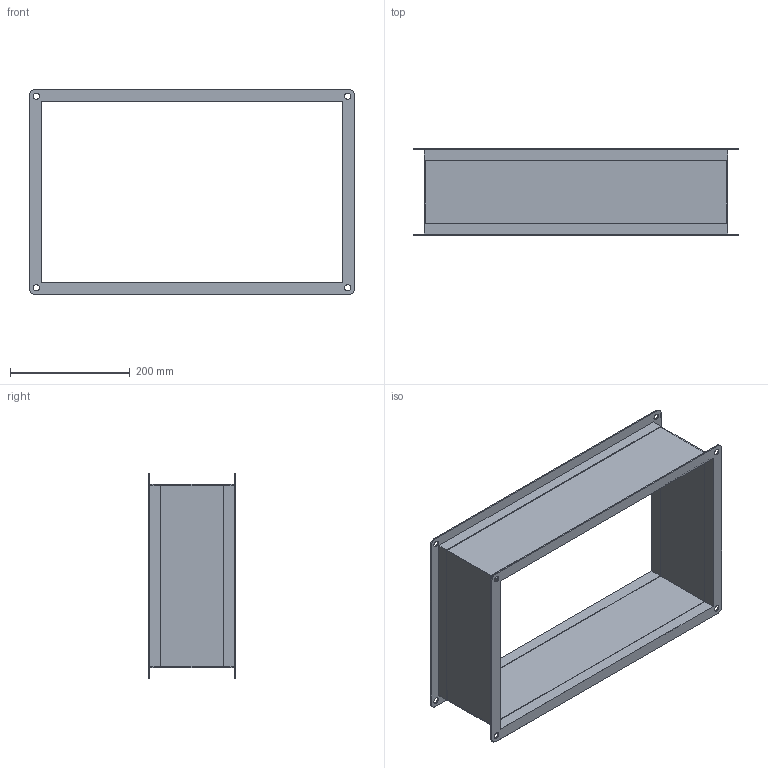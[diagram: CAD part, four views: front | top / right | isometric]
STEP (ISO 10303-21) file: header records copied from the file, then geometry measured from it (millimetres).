
FILE_DESCRIPTION(/* description */ (''),/* implementation_level */ '2;1');
FILE_NAME(/* name */ 'Z:\Output\AIR1-VS_50-30-07407-001.stp',/* time_stamp */ '2020-03-19T08:12:37+01:00',/* author */ ('Engineering1'),/* organization */ (''),/* preprocessor_version */ 'ST-DEVELOPER v17.2',/* originating_system */ 'Autodesk Inventor 2019',/* authorisation */ '');
FILE_SCHEMA (('AUTOMOTIVE_DESIGN { 1 0 10303 214 3 1 1 }'));
Length unit declared in the file: millimetre
Products named in the file (1): VS-1
Bounding box: 543 x 145 x 343 mm (x, y, z)
Volume: 420371.2 mm3; surface area: 601226.3 mm2
Topology: 1 solids, 1 shells, 56 faces, 148 edges, 100 vertices
Faces by surface type: plane 40, cylinder 16
Full cylindrical faces by diameter (mm): 10.5 x8
Entity records: 1832 total; most frequent: CARTESIAN_POINT 305, DIRECTION 298, ORIENTED_EDGE 296, EDGE_CURVE 148, LINE 112, VECTOR 112, VERTEX_POINT 100, AXIS2_PLACEMENT_3D 93
